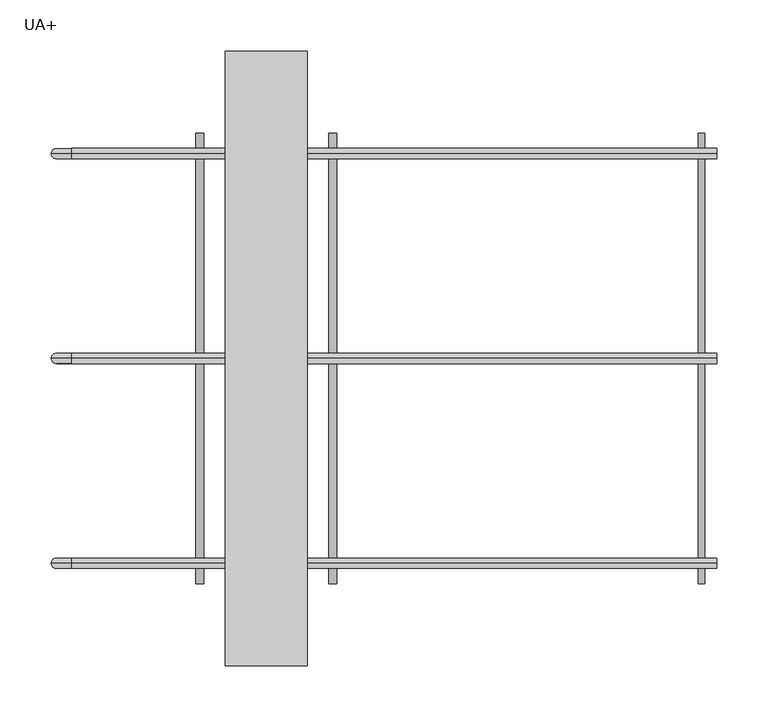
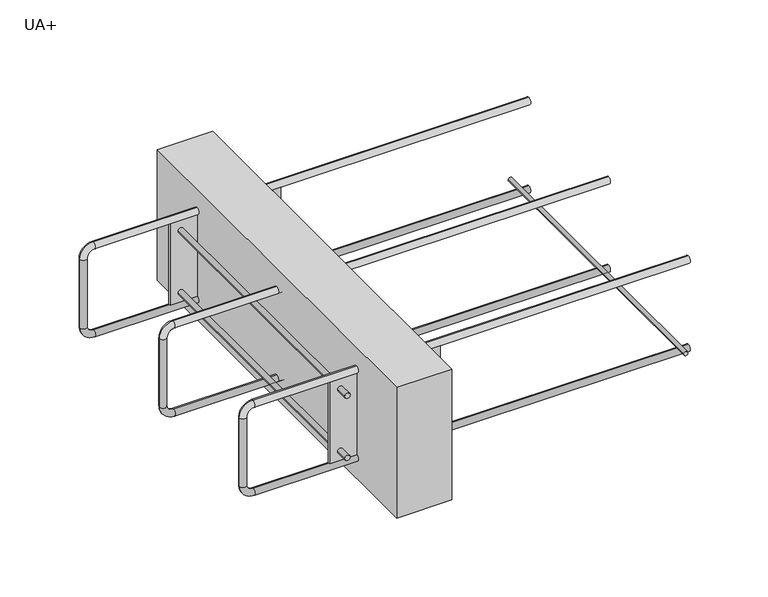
"""IFC4 building model written with IfcOpenShell, lengths in millimetres: fastener geometry, ACINOXplus_Typenreihe_Ux-Ox : UA+."""

from ifc_helpers import new_model, si_unit, point, frame, frame_2d, origin, place, context, project, spatial, polyline, circle_curve, ellipse_curve, trimmed, segment, composite_curve, outline, extrude, source, transform, mapped, element, save
from ifc_brep_helpers import plane_surface, cylinder_surface, revolved_surface, advanced_brep


def ua_43a1cf88(model_context):
    return source(origin(), model_context, "Body", "SolidModel", [
        extrude(outline(composite_curve([segment(trimmed(circle_curve(frame_2d((-159.5, 425.0)), 3.0), [point((-159.5, 428.0))], [point((-159.5, 422.0))], False, "CARTESIAN"), True, "CONTINUOUS"), segment(trimmed(circle_curve(frame_2d((-159.5, 425.0)), 3.0), [point((-159.5, 422.0))], [point((-159.5, 428.0))], False, "CARTESIAN"), True, "CONTINUOUS")], self_intersect=False)), frame((0.0, -220.0, 0.0), z_axis=(0.0, 1.0, 0.0), x_axis=(0.0, 0.0, 1.0)), (0.0, 0.0, 1.0), 440.0),
        extrude(outline(polyline([(40.0, 300.0), (40.0, -300.0), (-40.0, -300.0), (-40.0, 300.0), (40.0, 300.0)])), frame((0.0, 0.0, -200.0), z_axis=(0.0, 0.0, 1.0), x_axis=(1.0, 0.0, 0.0)), (0.0, 0.0, 1.0), 200.0),
        extrude(outline(polyline([(80.0, -198.5), (80.0, -201.5), (-80.0, -201.5), (-80.0, -198.5), (80.0, -198.5)])), frame((0.0, 0.0, -162.5), z_axis=(0.0, 0.0, 1.0), x_axis=(1.0, 0.0, 0.0)), (0.0, 0.0, 1.0), 125.0),
        extrude(outline(polyline([(80.0, 201.5), (80.0, 198.5), (-80.0, 198.5), (-80.0, 201.5), (80.0, 201.5)])), frame((0.0, 0.0, -162.5), z_axis=(0.0, 0.0, 1.0), x_axis=(1.0, 0.0, 0.0)), (0.0, 0.0, 1.0), 125.0),
        extrude(outline(composite_curve([segment(trimmed(circle_curve(frame_2d((-147.5, -65.0)), 4.0), [point((-147.5, -69.0))], [point((-147.5, -61.0))], False, "CARTESIAN"), True, "CONTINUOUS"), segment(trimmed(circle_curve(frame_2d((-147.5, -65.0)), 4.0), [point((-147.5, -61.0))], [point((-147.5, -69.0))], False, "CARTESIAN"), True, "CONTINUOUS")], self_intersect=False)), frame((0.0, 201.5, 0.0), z_axis=(0.0, 1.0, 0.0), x_axis=(0.0, 0.0, 1.0)), (0.0, 0.0, 1.0), 18.5),
        extrude(outline(composite_curve([segment(trimmed(circle_curve(frame_2d((-147.5, -65.0)), 4.0), [point((-147.5, -61.0))], [point((-147.5, -69.0))], False, "CARTESIAN"), True, "CONTINUOUS"), segment(trimmed(circle_curve(frame_2d((-147.5, -65.0)), 4.0), [point((-147.5, -69.0))], [point((-147.5, -61.0))], False, "CARTESIAN"), True, "CONTINUOUS")], self_intersect=False)), frame((0.0, -220.0, 0.0), z_axis=(0.0, 1.0, 0.0), x_axis=(0.0, 0.0, 1.0)), (0.0, 0.0, 1.0), 18.5),
        extrude(outline(composite_curve([segment(trimmed(circle_curve(frame_2d((-147.5, -65.0)), 4.0), [point((-147.5, -69.0))], [point((-147.5, -61.0))], False, "CARTESIAN"), True, "CONTINUOUS"), segment(trimmed(circle_curve(frame_2d((-147.5, -65.0)), 4.0), [point((-147.5, -61.0))], [point((-147.5, -69.0))], False, "CARTESIAN"), True, "CONTINUOUS")], self_intersect=False)), frame((0.0, -198.5, 0.0), z_axis=(0.0, 1.0, 0.0), x_axis=(0.0, 0.0, 1.0)), (0.0, 0.0, 1.0), 397.0),
        extrude(outline(composite_curve([segment(trimmed(circle_curve(frame_2d((-147.5, 65.0)), 4.0), [point((-147.5, 61.0))], [point((-147.5, 69.0))], False, "CARTESIAN"), True, "CONTINUOUS"), segment(trimmed(circle_curve(frame_2d((-147.5, 65.0)), 4.0), [point((-147.5, 69.0))], [point((-147.5, 61.0))], False, "CARTESIAN"), True, "CONTINUOUS")], self_intersect=False)), frame((0.0, 201.5, 0.0), z_axis=(0.0, 1.0, 0.0), x_axis=(0.0, 0.0, 1.0)), (0.0, 0.0, 1.0), 18.5),
        extrude(outline(composite_curve([segment(trimmed(circle_curve(frame_2d((-147.5, 65.0)), 4.0), [point((-147.5, 69.0))], [point((-147.5, 61.0))], False, "CARTESIAN"), True, "CONTINUOUS"), segment(trimmed(circle_curve(frame_2d((-147.5, 65.0)), 4.0), [point((-147.5, 61.0))], [point((-147.5, 69.0))], False, "CARTESIAN"), True, "CONTINUOUS")], self_intersect=False)), frame((0.0, -220.0, 0.0), z_axis=(0.0, 1.0, 0.0), x_axis=(0.0, 0.0, 1.0)), (0.0, 0.0, 1.0), 18.5),
        extrude(outline(composite_curve([segment(trimmed(circle_curve(frame_2d((-147.5, 65.0)), 4.0), [point((-147.5, 61.0))], [point((-147.5, 69.0))], False, "CARTESIAN"), True, "CONTINUOUS"), segment(trimmed(circle_curve(frame_2d((-147.5, 65.0)), 4.0), [point((-147.5, 69.0))], [point((-147.5, 61.0))], False, "CARTESIAN"), True, "CONTINUOUS")], self_intersect=False)), frame((0.0, -198.5, 0.0), z_axis=(0.0, 1.0, 0.0), x_axis=(0.0, 0.0, 1.0)), (0.0, 0.0, 1.0), 397.0),
        extrude(outline(composite_curve([segment(trimmed(circle_curve(frame_2d((-52.5, -65.0)), 4.0), [point((-52.5, -69.0))], [point((-52.5, -61.0))], False, "CARTESIAN"), True, "CONTINUOUS"), segment(trimmed(circle_curve(frame_2d((-52.5, -65.0)), 4.0), [point((-52.5, -61.0))], [point((-52.5, -69.0))], False, "CARTESIAN"), True, "CONTINUOUS")], self_intersect=False)), frame((0.0, 201.5, 0.0), z_axis=(0.0, 1.0, 0.0), x_axis=(0.0, 0.0, 1.0)), (0.0, 0.0, 1.0), 18.5),
        extrude(outline(composite_curve([segment(trimmed(circle_curve(frame_2d((-52.5, -65.0)), 4.0), [point((-52.5, -61.0))], [point((-52.5, -69.0))], False, "CARTESIAN"), True, "CONTINUOUS"), segment(trimmed(circle_curve(frame_2d((-52.5, -65.0)), 4.0), [point((-52.5, -69.0))], [point((-52.5, -61.0))], False, "CARTESIAN"), True, "CONTINUOUS")], self_intersect=False)), frame((0.0, -220.0, 0.0), z_axis=(0.0, 1.0, 0.0), x_axis=(0.0, 0.0, 1.0)), (0.0, 0.0, 1.0), 18.5),
        extrude(outline(composite_curve([segment(trimmed(circle_curve(frame_2d((-52.5, -65.0)), 4.0), [point((-52.5, -69.0))], [point((-52.5, -61.0))], False, "CARTESIAN"), True, "CONTINUOUS"), segment(trimmed(circle_curve(frame_2d((-52.5, -65.0)), 4.0), [point((-52.5, -61.0))], [point((-52.5, -69.0))], False, "CARTESIAN"), True, "CONTINUOUS")], self_intersect=False)), frame((0.0, -198.5, 0.0), z_axis=(0.0, 1.0, 0.0), x_axis=(0.0, 0.0, 1.0)), (0.0, 0.0, 1.0), 397.0),
        extrude(outline(composite_curve([segment(trimmed(circle_curve(frame_2d((-52.5, 65.0)), 4.0), [point((-52.5, 61.0))], [point((-52.5, 69.0))], False, "CARTESIAN"), True, "CONTINUOUS"), segment(trimmed(circle_curve(frame_2d((-52.5, 65.0)), 4.0), [point((-52.5, 69.0))], [point((-52.5, 61.0))], False, "CARTESIAN"), True, "CONTINUOUS")], self_intersect=False)), frame((0.0, 201.5, 0.0), z_axis=(0.0, 1.0, 0.0), x_axis=(0.0, 0.0, 1.0)), (0.0, 0.0, 1.0), 18.5),
        extrude(outline(composite_curve([segment(trimmed(circle_curve(frame_2d((-52.5, 65.0)), 4.0), [point((-52.5, 69.0))], [point((-52.5, 61.0))], False, "CARTESIAN"), True, "CONTINUOUS"), segment(trimmed(circle_curve(frame_2d((-52.5, 65.0)), 4.0), [point((-52.5, 61.0))], [point((-52.5, 69.0))], False, "CARTESIAN"), True, "CONTINUOUS")], self_intersect=False)), frame((0.0, -220.0, 0.0), z_axis=(0.0, 1.0, 0.0), x_axis=(0.0, 0.0, 1.0)), (0.0, 0.0, 1.0), 18.5),
        extrude(outline(composite_curve([segment(trimmed(circle_curve(frame_2d((-52.5, 65.0)), 4.0), [point((-52.5, 61.0))], [point((-52.5, 69.0))], False, "CARTESIAN"), True, "CONTINUOUS"), segment(trimmed(circle_curve(frame_2d((-52.5, 65.0)), 4.0), [point((-52.5, 69.0))], [point((-52.5, 61.0))], False, "CARTESIAN"), True, "CONTINUOUS")], self_intersect=False)), frame((0.0, -198.5, 0.0), z_axis=(0.0, 1.0, 0.0), x_axis=(0.0, 0.0, 1.0)), (0.0, 0.0, 1.0), 397.0),
        advanced_brep(
        [(440.0, 0.0, -27.5), (440.0, 0.0, -37.5), (-190.0, 0.0, -27.5), (-190.0, 0.0, -37.5), (-200.0, 0.0, -47.5), (-210.0, 0.0, -47.5), (-210.0, 0.0, -152.5), (-200.0, 0.0, -152.5), (-190.0, 0.0, -162.5), (-190.0, 0.0, -172.5), (440.0, 0.0, -172.5), (440.0, 0.0, -162.5)],
        [
            (0, 1, circle_curve(frame((440.0, 0.0, -32.5), z_axis=(1.0, 0.0, 0.0), x_axis=(0.0, 0.0, -1.0)), 5.0)),
            (1, 0, circle_curve(frame((440.0, 0.0, -32.5), z_axis=(1.0, 0.0, 0.0), x_axis=(0.0, 0.0, -1.0)), 5.0)),
            (0, 2),
            (2, 3, circle_curve(frame((-190.0, 0.0, -32.5), z_axis=(1.0, 0.0, 0.0), x_axis=(0.0, 0.0, -1.0)), 5.0)),
            (3, 1),
            (3, 2, circle_curve(frame((-190.0, 0.0, -32.5), z_axis=(1.0, 0.0, 0.0), x_axis=(0.0, 0.0, -1.0)), 5.0)),
            (4, 3, circle_curve(frame((-190.0, 0.0, -47.5), z_axis=(0.0, 1.0, 0.0), x_axis=(0.0, 0.0, 1.0)), 10.0)),
            (2, 5, circle_curve(frame((-190.0, 0.0, -47.5), z_axis=(0.0, -1.0, 0.0), x_axis=(0.0, 0.0, 1.0)), 20.0)),
            (5, 4, circle_curve(frame((-205.0, 0.0, -47.5), z_axis=(0.0, 0.0, 1.0), x_axis=(1.0, 0.0, 0.0)), 5.0)),
            (4, 5, circle_curve(frame((-205.0, 0.0, -47.5), z_axis=(0.0, 0.0, 1.0), x_axis=(1.0, 0.0, 0.0)), 5.0)),
            (5, 6),
            (6, 7, circle_curve(frame((-205.0, 0.0, -152.5), z_axis=(0.0, 0.0, 1.0), x_axis=(1.0, 0.0, 0.0)), 5.0)),
            (7, 4),
            (7, 6, circle_curve(frame((-205.0, 0.0, -152.5), z_axis=(0.0, 0.0, 1.0), x_axis=(1.0, 0.0, 0.0)), 5.0)),
            (8, 7, circle_curve(frame((-190.0, 0.0, -152.5), z_axis=(0.0, 1.0, 0.0), x_axis=(-1.0, 0.0, 0.0)), 10.0)),
            (6, 9, circle_curve(frame((-190.0, 0.0, -152.5), z_axis=(0.0, -1.0, 0.0), x_axis=(-1.0, 0.0, 0.0)), 20.0)),
            (9, 8, circle_curve(frame((-190.0, 0.0, -167.5), z_axis=(-1.0, 0.0, 0.0), x_axis=(0.0, 0.0, 1.0)), 5.0)),
            (8, 9, circle_curve(frame((-190.0, 0.0, -167.5), z_axis=(-1.0, 0.0, 0.0), x_axis=(0.0, 0.0, 1.0)), 5.0)),
            (10, 11, circle_curve(frame((440.0, 0.0, -167.5), z_axis=(1.0, 0.0, 0.0), x_axis=(0.0, 0.0, 1.0)), 5.0)),
            (11, 10, circle_curve(frame((440.0, 0.0, -167.5), z_axis=(1.0, 0.0, 0.0), x_axis=(0.0, 0.0, 1.0)), 5.0)),
            (9, 10),
            (11, 8),
        ],
        [
            plane_surface(frame((440.0, 0.0, -32.5), z_axis=(1.0, 0.0, 0.0), x_axis=(0.0, -1.0, 0.0))),
            cylinder_surface(frame((440.0, 0.0, -32.5), z_axis=(1.0, 0.0, 0.0), x_axis=(0.0, 0.0, -1.0)), 5.0),
            revolved_surface(trimmed(ellipse_curve(frame((-190.0, 0.0, -32.5), z_axis=(1.0, 0.0, 0.0), x_axis=(0.0, 0.0, -1.0)), 5.0, 5.0), [point((-190.0, 0.0, -27.5))], [point((-190.0, 0.0, -37.5))], True, "CARTESIAN"), (-190.0, 0.0, -47.5), (0.0, -1.0, 0.0)),
            revolved_surface(trimmed(ellipse_curve(frame((-190.0, 0.0, -32.5), z_axis=(1.0, 0.0, 0.0), x_axis=(0.0, 0.0, -1.0)), 5.0, 5.0), [point((-190.0, 0.0, -37.5))], [point((-190.0, 0.0, -27.5))], True, "CARTESIAN"), (-190.0, 0.0, -47.5), (0.0, -1.0, 0.0)),
            cylinder_surface(frame((-205.0, 0.0, -47.5), z_axis=(0.0, 0.0, 1.0), x_axis=(1.0, 0.0, 0.0)), 5.0),
            revolved_surface(trimmed(ellipse_curve(frame((-205.0, 0.0, -152.5), z_axis=(0.0, 0.0, 1.0), x_axis=(1.0, 0.0, 0.0)), 5.0, 5.0), [point((-210.0, 0.0, -152.5))], [point((-200.0, 0.0, -152.5))], True, "CARTESIAN"), (-190.0, 0.0, -152.5), (0.0, -1.0, 0.0)),
            revolved_surface(trimmed(ellipse_curve(frame((-205.0, 0.0, -152.5), z_axis=(0.0, 0.0, 1.0), x_axis=(1.0, 0.0, 0.0)), 5.0, 5.0), [point((-200.0, 0.0, -152.5))], [point((-210.0, 0.0, -152.5))], True, "CARTESIAN"), (-190.0, 0.0, -152.5), (0.0, -1.0, 0.0)),
            plane_surface(frame((440.0, 0.0, -167.5), z_axis=(1.0, 0.0, 0.0), x_axis=(0.0, -1.0, 0.0))),
            cylinder_surface(frame((-190.0, 0.0, -167.5), z_axis=(-1.0, 0.0, 0.0), x_axis=(0.0, 0.0, 1.0)), 5.0),
        ],
        [
            (0, [[1, 2]]),
            (1, [[-1, 3, 4, 5]]),
            (1, [[-2, -5, 6, -3]]),
            (2, [[7, -4, 8, 9]]),
            (3, [[-8, -6, -7, 10]]),
            (4, [[-9, 11, 12, 13]]),
            (4, [[-10, -13, 14, -11]]),
            (5, [[15, -12, 16, 17]]),
            (6, [[-16, -14, -15, 18]]),
            (7, [[19, 20]]),
            (8, [[-17, 21, -20, 22]]),
            (8, [[-18, -22, -19, -21]]),
        ],
    ),
        advanced_brep(
        [(440.0, 200.0, -27.5), (440.0, 200.0, -37.5), (-190.0, 200.0, -27.5), (-190.0, 200.0, -37.5), (-200.0, 200.0, -47.5), (-210.0, 200.0, -47.5), (-210.0, 200.0, -152.5), (-200.0, 200.0, -152.5), (-190.0, 200.0, -162.5), (-190.0, 200.0, -172.5), (440.0, 200.0, -172.5), (440.0, 200.0, -162.5)],
        [
            (0, 1, circle_curve(frame((440.0, 200.0, -32.5), z_axis=(1.0, 0.0, 0.0), x_axis=(0.0, 0.0, -1.0)), 5.0)),
            (1, 0, circle_curve(frame((440.0, 200.0, -32.5), z_axis=(1.0, 0.0, 0.0), x_axis=(0.0, 0.0, -1.0)), 5.0)),
            (0, 2),
            (2, 3, circle_curve(frame((-190.0, 200.0, -32.5), z_axis=(1.0, 0.0, 0.0), x_axis=(0.0, 0.0, -1.0)), 5.0)),
            (3, 1),
            (3, 2, circle_curve(frame((-190.0, 200.0, -32.5), z_axis=(1.0, 0.0, 0.0), x_axis=(0.0, 0.0, -1.0)), 5.0)),
            (4, 3, circle_curve(frame((-190.0, 200.0, -47.5), z_axis=(0.0, 1.0, 0.0), x_axis=(0.0, 0.0, 1.0)), 10.0)),
            (2, 5, circle_curve(frame((-190.0, 200.0, -47.5), z_axis=(0.0, -1.0, 0.0), x_axis=(0.0, 0.0, 1.0)), 20.0)),
            (5, 4, circle_curve(frame((-205.0, 200.0, -47.5), z_axis=(0.0, 0.0, 1.0), x_axis=(1.0, 0.0, 0.0)), 5.0)),
            (4, 5, circle_curve(frame((-205.0, 200.0, -47.5), z_axis=(0.0, 0.0, 1.0), x_axis=(1.0, 0.0, 0.0)), 5.0)),
            (5, 6),
            (6, 7, circle_curve(frame((-205.0, 200.0, -152.5), z_axis=(0.0, 0.0, 1.0), x_axis=(1.0, 0.0, 0.0)), 5.0)),
            (7, 4),
            (7, 6, circle_curve(frame((-205.0, 200.0, -152.5), z_axis=(0.0, 0.0, 1.0), x_axis=(1.0, 0.0, 0.0)), 5.0)),
            (8, 7, circle_curve(frame((-190.0, 200.0, -152.5), z_axis=(0.0, 1.0, 0.0), x_axis=(-1.0, 0.0, 0.0)), 10.0)),
            (6, 9, circle_curve(frame((-190.0, 200.0, -152.5), z_axis=(0.0, -1.0, 0.0), x_axis=(-1.0, 0.0, 0.0)), 20.0)),
            (9, 8, circle_curve(frame((-190.0, 200.0, -167.5), z_axis=(-1.0, 0.0, 0.0), x_axis=(0.0, 0.0, 1.0)), 5.0)),
            (8, 9, circle_curve(frame((-190.0, 200.0, -167.5), z_axis=(-1.0, 0.0, 0.0), x_axis=(0.0, 0.0, 1.0)), 5.0)),
            (10, 11, circle_curve(frame((440.0, 200.0, -167.5), z_axis=(1.0, 0.0, 0.0), x_axis=(0.0, 0.0, 1.0)), 5.0)),
            (11, 10, circle_curve(frame((440.0, 200.0, -167.5), z_axis=(1.0, 0.0, 0.0), x_axis=(0.0, 0.0, 1.0)), 5.0)),
            (9, 10),
            (11, 8),
        ],
        [
            plane_surface(frame((440.0, 200.0, -32.5), z_axis=(1.0, 0.0, 0.0), x_axis=(0.0, -1.0, 0.0))),
            cylinder_surface(frame((440.0, 200.0, -32.5), z_axis=(1.0, 0.0, 0.0), x_axis=(0.0, 0.0, -1.0)), 5.0),
            revolved_surface(trimmed(ellipse_curve(frame((-190.0, 200.0, -32.5), z_axis=(1.0, 0.0, 0.0), x_axis=(0.0, 0.0, -1.0)), 5.0, 5.0), [point((-190.0, 200.0, -27.5))], [point((-190.0, 200.0, -37.5))], True, "CARTESIAN"), (-190.0, 200.0, -47.5), (0.0, -1.0, 0.0)),
            revolved_surface(trimmed(ellipse_curve(frame((-190.0, 200.0, -32.5), z_axis=(1.0, 0.0, 0.0), x_axis=(0.0, 0.0, -1.0)), 5.0, 5.0), [point((-190.0, 200.0, -37.5))], [point((-190.0, 200.0, -27.5))], True, "CARTESIAN"), (-190.0, 200.0, -47.5), (0.0, -1.0, 0.0)),
            cylinder_surface(frame((-205.0, 200.0, -47.5), z_axis=(0.0, 0.0, 1.0), x_axis=(1.0, 0.0, 0.0)), 5.0),
            revolved_surface(trimmed(ellipse_curve(frame((-205.0, 200.0, -152.5), z_axis=(0.0, 0.0, 1.0), x_axis=(1.0, 0.0, 0.0)), 5.0, 5.0), [point((-210.0, 200.0, -152.5))], [point((-200.0, 200.0, -152.5))], True, "CARTESIAN"), (-190.0, 200.0, -152.5), (0.0, -1.0, 0.0)),
            revolved_surface(trimmed(ellipse_curve(frame((-205.0, 200.0, -152.5), z_axis=(0.0, 0.0, 1.0), x_axis=(1.0, 0.0, 0.0)), 5.0, 5.0), [point((-200.0, 200.0, -152.5))], [point((-210.0, 200.0, -152.5))], True, "CARTESIAN"), (-190.0, 200.0, -152.5), (0.0, -1.0, 0.0)),
            plane_surface(frame((440.0, 200.0, -167.5), z_axis=(1.0, 0.0, 0.0), x_axis=(0.0, -1.0, 0.0))),
            cylinder_surface(frame((-190.0, 200.0, -167.5), z_axis=(-1.0, 0.0, 0.0), x_axis=(0.0, 0.0, 1.0)), 5.0),
        ],
        [
            (0, [[1, 2]]),
            (1, [[-1, 3, 4, 5]]),
            (1, [[-2, -5, 6, -3]]),
            (2, [[7, -4, 8, 9]]),
            (3, [[-8, -6, -7, 10]]),
            (4, [[-9, 11, 12, 13]]),
            (4, [[-10, -13, 14, -11]]),
            (5, [[15, -12, 16, 17]]),
            (6, [[-16, -14, -15, 18]]),
            (7, [[19, 20]]),
            (8, [[-17, 21, -20, 22]]),
            (8, [[-18, -22, -19, -21]]),
        ],
    ),
        advanced_brep(
        [(440.0, -200.0, -27.5), (440.0, -200.0, -37.5), (-190.0, -200.0, -27.5), (-190.0, -200.0, -37.5), (-200.0, -200.0, -47.5), (-210.0, -200.0, -47.5), (-210.0, -200.0, -152.5), (-200.0, -200.0, -152.5), (-190.0, -200.0, -162.5), (-190.0, -200.0, -172.5), (440.0, -200.0, -172.5), (440.0, -200.0, -162.5)],
        [
            (0, 1, circle_curve(frame((440.0, -200.0, -32.5), z_axis=(1.0, 0.0, 0.0), x_axis=(0.0, 0.0, -1.0)), 5.0)),
            (1, 0, circle_curve(frame((440.0, -200.0, -32.5), z_axis=(1.0, 0.0, 0.0), x_axis=(0.0, 0.0, -1.0)), 5.0)),
            (0, 2),
            (2, 3, circle_curve(frame((-190.0, -200.0, -32.5), z_axis=(1.0, 0.0, 0.0), x_axis=(0.0, 0.0, -1.0)), 5.0)),
            (3, 1),
            (3, 2, circle_curve(frame((-190.0, -200.0, -32.5), z_axis=(1.0, 0.0, 0.0), x_axis=(0.0, 0.0, -1.0)), 5.0)),
            (4, 3, circle_curve(frame((-190.0, -200.0, -47.5), z_axis=(0.0, 1.0, 0.0), x_axis=(0.0, 0.0, 1.0)), 10.0)),
            (2, 5, circle_curve(frame((-190.0, -200.0, -47.5), z_axis=(0.0, -1.0, 0.0), x_axis=(0.0, 0.0, 1.0)), 20.0)),
            (5, 4, circle_curve(frame((-205.0, -200.0, -47.5), z_axis=(0.0, 0.0, 1.0), x_axis=(1.0, 0.0, 0.0)), 5.0)),
            (4, 5, circle_curve(frame((-205.0, -200.0, -47.5), z_axis=(0.0, 0.0, 1.0), x_axis=(1.0, 0.0, 0.0)), 5.0)),
            (5, 6),
            (6, 7, circle_curve(frame((-205.0, -200.0, -152.5), z_axis=(0.0, 0.0, 1.0), x_axis=(1.0, 0.0, 0.0)), 5.0)),
            (7, 4),
            (7, 6, circle_curve(frame((-205.0, -200.0, -152.5), z_axis=(0.0, 0.0, 1.0), x_axis=(1.0, 0.0, 0.0)), 5.0)),
            (8, 7, circle_curve(frame((-190.0, -200.0, -152.5), z_axis=(0.0, 1.0, 0.0), x_axis=(-1.0, 0.0, 0.0)), 10.0)),
            (6, 9, circle_curve(frame((-190.0, -200.0, -152.5), z_axis=(0.0, -1.0, 0.0), x_axis=(-1.0, 0.0, 0.0)), 20.0)),
            (9, 8, circle_curve(frame((-190.0, -200.0, -167.5), z_axis=(-1.0, 0.0, 0.0), x_axis=(0.0, 0.0, 1.0)), 5.0)),
            (8, 9, circle_curve(frame((-190.0, -200.0, -167.5), z_axis=(-1.0, 0.0, 0.0), x_axis=(0.0, 0.0, 1.0)), 5.0)),
            (10, 11, circle_curve(frame((440.0, -200.0, -167.5), z_axis=(1.0, 0.0, 0.0), x_axis=(0.0, 0.0, 1.0)), 5.0)),
            (11, 10, circle_curve(frame((440.0, -200.0, -167.5), z_axis=(1.0, 0.0, 0.0), x_axis=(0.0, 0.0, 1.0)), 5.0)),
            (9, 10),
            (11, 8),
        ],
        [
            plane_surface(frame((440.0, -200.0, -32.5), z_axis=(1.0, 0.0, 0.0), x_axis=(0.0, -1.0, 0.0))),
            cylinder_surface(frame((440.0, -200.0, -32.5), z_axis=(1.0, 0.0, 0.0), x_axis=(0.0, 0.0, -1.0)), 5.0),
            revolved_surface(trimmed(ellipse_curve(frame((-190.0, -200.0, -32.5), z_axis=(1.0, 0.0, 0.0), x_axis=(0.0, 0.0, -1.0)), 5.0, 5.0), [point((-190.0, -200.0, -27.5))], [point((-190.0, -200.0, -37.5))], True, "CARTESIAN"), (-190.0, -200.0, -47.5), (0.0, -1.0, 0.0)),
            revolved_surface(trimmed(ellipse_curve(frame((-190.0, -200.0, -32.5), z_axis=(1.0, 0.0, 0.0), x_axis=(0.0, 0.0, -1.0)), 5.0, 5.0), [point((-190.0, -200.0, -37.5))], [point((-190.0, -200.0, -27.5))], True, "CARTESIAN"), (-190.0, -200.0, -47.5), (0.0, -1.0, 0.0)),
            cylinder_surface(frame((-205.0, -200.0, -47.5), z_axis=(0.0, 0.0, 1.0), x_axis=(1.0, 0.0, 0.0)), 5.0),
            revolved_surface(trimmed(ellipse_curve(frame((-205.0, -200.0, -152.5), z_axis=(0.0, 0.0, 1.0), x_axis=(1.0, 0.0, 0.0)), 5.0, 5.0), [point((-210.0, -200.0, -152.5))], [point((-200.0, -200.0, -152.5))], True, "CARTESIAN"), (-190.0, -200.0, -152.5), (0.0, -1.0, 0.0)),
            revolved_surface(trimmed(ellipse_curve(frame((-205.0, -200.0, -152.5), z_axis=(0.0, 0.0, 1.0), x_axis=(1.0, 0.0, 0.0)), 5.0, 5.0), [point((-200.0, -200.0, -152.5))], [point((-210.0, -200.0, -152.5))], True, "CARTESIAN"), (-190.0, -200.0, -152.5), (0.0, -1.0, 0.0)),
            plane_surface(frame((440.0, -200.0, -167.5), z_axis=(1.0, 0.0, 0.0), x_axis=(0.0, -1.0, 0.0))),
            cylinder_surface(frame((-190.0, -200.0, -167.5), z_axis=(-1.0, 0.0, 0.0), x_axis=(0.0, 0.0, 1.0)), 5.0),
        ],
        [
            (0, [[1, 2]]),
            (1, [[-1, 3, 4, 5]]),
            (1, [[-2, -5, 6, -3]]),
            (2, [[7, -4, 8, 9]]),
            (3, [[-8, -6, -7, 10]]),
            (4, [[-9, 11, 12, 13]]),
            (4, [[-10, -13, 14, -11]]),
            (5, [[15, -12, 16, 17]]),
            (6, [[-16, -14, -15, 18]]),
            (7, [[19, 20]]),
            (8, [[-17, 21, -20, 22]]),
            (8, [[-18, -22, -19, -21]]),
        ],
    ),
    ])


if __name__ == "__main__":
    model = new_model("IFC4")
    model_context = context("Model", 3, world=origin())
    ifc_project = project(units=[si_unit("LENGTHUNIT", "METRE", prefix="MILLI")], contexts=[model_context])
    site = spatial("IfcSite", under=ifc_project)
    building = spatial("IfcBuilding", under=site)
    placement = place(None, origin())
    ua_shape = ua_43a1cf88(model_context)
    element("IfcFastener", 1, ObjectType="ACINOXplus_Typenreihe_Ux-Ox : UA+", at=placement, inside=building, context=model_context, shape_type="MappedRepresentation", body=[
        mapped(ua_shape, transform((0.0, 0.0, 0.0), x_axis=(1.0, 0.0, 0.0), y_axis=(0.0, 1.0, 0.0), z_axis=(0.0, 0.0, 1.0))),
    ])
    save(model, "model.ifc")
